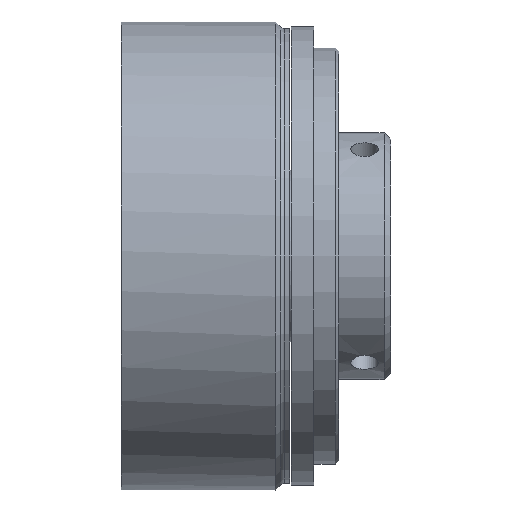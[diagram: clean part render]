
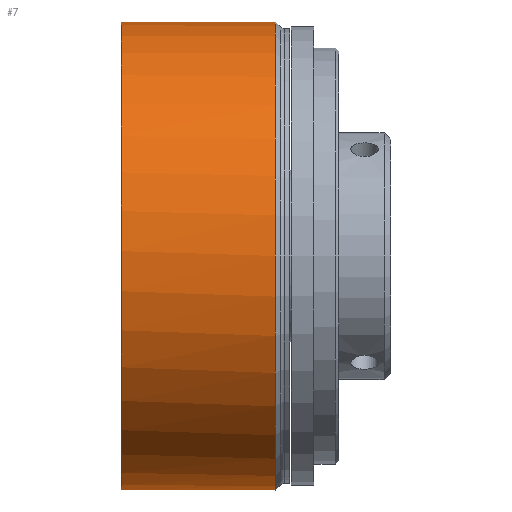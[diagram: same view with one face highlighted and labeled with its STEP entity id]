
A CAD part, front view. The second image highlights one B-rep face of the part: STEP entity #7.
In plain terms, the highlighted cylindrical face has radius 36 mm (diameter 72 mm), a full revolution.
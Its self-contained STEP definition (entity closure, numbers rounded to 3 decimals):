
#7 = ADVANCED_FACE ( 'NONE', ( #1157, #111 ), #1492, .T. ) ;
#67 = CARTESIAN_POINT ( 'NONE',  ( 23.7, 0., 0. ) ) ;
#72 = VERTEX_POINT ( 'NONE', #882 ) ;
#111 = FACE_OUTER_BOUND ( 'NONE', #1205, .T. ) ;
#192 = EDGE_CURVE ( 'NONE', #1645, #72, #1282, .T. ) ;
#208 = VERTEX_POINT ( 'NONE', #1034 ) ;
#210 = DIRECTION ( 'NONE',  ( -1., 0., 0. ) ) ;
#237 = CARTESIAN_POINT ( 'NONE',  ( 11.5, 0., 0. ) ) ;
#258 = DIRECTION ( 'NONE',  ( -1., 0., 0. ) ) ;
#326 = ORIENTED_EDGE ( 'NONE', *, *, #384, .F. ) ;
#328 = ORIENTED_EDGE ( 'NONE', *, *, #539, .F. ) ;
#384 = EDGE_CURVE ( 'NONE', #208, #917, #385, .T. ) ;
#385 = CIRCLE ( 'NONE', #864, 36. ) ;
#539 = EDGE_CURVE ( 'NONE', #917, #1645, #610, .T. ) ;
#540 = DIRECTION ( 'NONE',  ( 0., 0., 1. ) ) ;
#542 = CIRCLE ( 'NONE', #833, 36. ) ;
#545 = CARTESIAN_POINT ( 'NONE',  ( 0., 0., 0. ) ) ;
#610 = LINE ( 'NONE', #1045, #902 ) ;
#653 = DIRECTION ( 'NONE',  ( -1., 0., 0. ) ) ;
#671 = AXIS2_PLACEMENT_3D ( 'NONE', #1141, #258, #1275 ) ;
#719 = EDGE_CURVE ( 'NONE', #910, #910, #542, .T. ) ;
#736 = CARTESIAN_POINT ( 'NONE',  ( 11.5, 35.93, 2.25 ) ) ;
#752 = LINE ( 'NONE', #736, #986 ) ;
#778 = ORIENTED_EDGE ( 'NONE', *, *, #1391, .T. ) ;
#833 = AXIS2_PLACEMENT_3D ( 'NONE', #67, #1066, #963 ) ;
#849 = ORIENTED_EDGE ( 'NONE', *, *, #192, .F. ) ;
#864 = AXIS2_PLACEMENT_3D ( 'NONE', #237, #991, #1622 ) ;
#882 = CARTESIAN_POINT ( 'NONE',  ( 0., 35.93, 2.25 ) ) ;
#902 = VECTOR ( 'NONE', #1171, 1000. ) ;
#910 = VERTEX_POINT ( 'NONE', #1195 ) ;
#917 = VERTEX_POINT ( 'NONE', #1193 ) ;
#957 = AXIS2_PLACEMENT_3D ( 'NONE', #545, #653, #540 ) ;
#963 = DIRECTION ( 'NONE',  ( 0., 0., 1. ) ) ;
#986 = VECTOR ( 'NONE', #210, 1000. ) ;
#991 = DIRECTION ( 'NONE',  ( -1., 0., 0. ) ) ;
#1034 = CARTESIAN_POINT ( 'NONE',  ( 11.5, 35.93, 2.25 ) ) ;
#1045 = CARTESIAN_POINT ( 'NONE',  ( 11.5, 35.93, -2.25 ) ) ;
#1066 = DIRECTION ( 'NONE',  ( -1., 0., 0. ) ) ;
#1102 = ORIENTED_EDGE ( 'NONE', *, *, #719, .T. ) ;
#1119 = CARTESIAN_POINT ( 'NONE',  ( 0., 35.93, -2.25 ) ) ;
#1141 = CARTESIAN_POINT ( 'NONE',  ( 0., 0., 0. ) ) ;
#1157 = FACE_OUTER_BOUND ( 'NONE', #1438, .T. ) ;
#1171 = DIRECTION ( 'NONE',  ( -1., 0., 0. ) ) ;
#1193 = CARTESIAN_POINT ( 'NONE',  ( 11.5, 35.93, -2.25 ) ) ;
#1195 = CARTESIAN_POINT ( 'NONE',  ( 23.7, 0., 36. ) ) ;
#1205 = EDGE_LOOP ( 'NONE', ( #1102 ) ) ;
#1275 = DIRECTION ( 'NONE',  ( 0., 0., 1. ) ) ;
#1282 = CIRCLE ( 'NONE', #957, 36. ) ;
#1391 = EDGE_CURVE ( 'NONE', #208, #72, #752, .T. ) ;
#1438 = EDGE_LOOP ( 'NONE', ( #328, #326, #778, #849 ) ) ;
#1492 = CYLINDRICAL_SURFACE ( 'NONE', #671, 36. ) ;
#1622 = DIRECTION ( 'NONE',  ( 0., 0., 1. ) ) ;
#1645 = VERTEX_POINT ( 'NONE', #1119 ) ;
